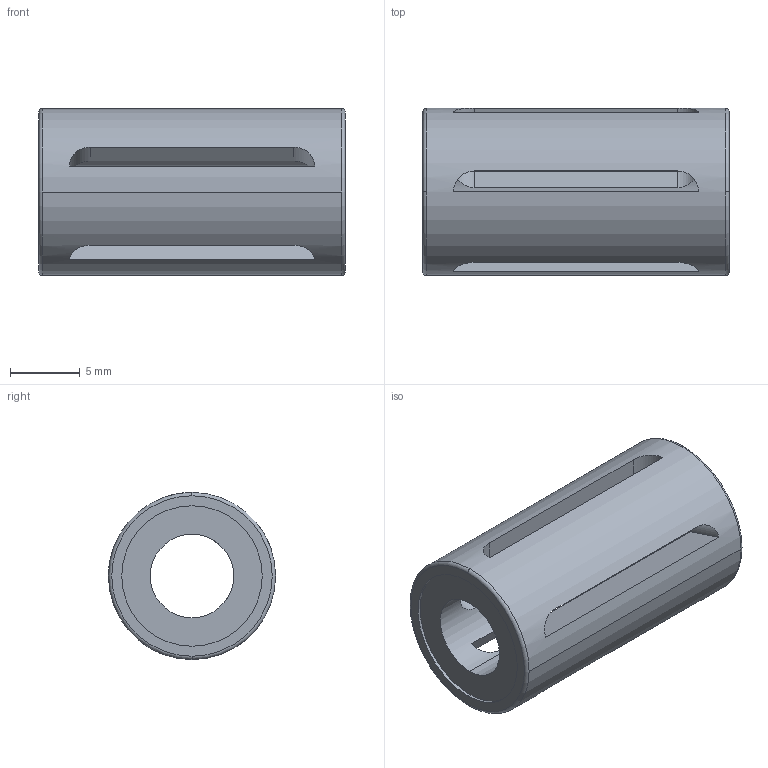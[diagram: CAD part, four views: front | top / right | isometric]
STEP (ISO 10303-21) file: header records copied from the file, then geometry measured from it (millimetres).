
FILE_DESCRIPTION(('FreeCAD Model'),'2;1');
FILE_NAME('Open CASCADE Shape Model','2021-05-03T12:58:17',('Author'),( ''),'Open CASCADE STEP processor 7.5','FreeCAD','Unknown');
FILE_SCHEMA(('AUTOMOTIVE_DESIGN { 1 0 10303 214 1 1 1 1 }'));
Length unit declared in the file: millimetre
Products named in the file (1): ball_bearing_kh0622pp
Bounding box: 22 x 12 x 12 mm (x, y, z)
Volume: 1452.8 mm3; surface area: 1721.6 mm2
Topology: 1 solids, 1 shells, 36 faces, 99 edges, 66 vertices
Faces by surface type: cylinder 18, plane 14, torus 4
Entity records: 5003 total; most frequent: CARTESIAN_POINT 2842, DIRECTION 326, ORIENTED_EDGE 198, PCURVE 198, DEFINITIONAL_REPRESENTATION 198, LINE 189, VECTOR 189, EDGE_CURVE 99
